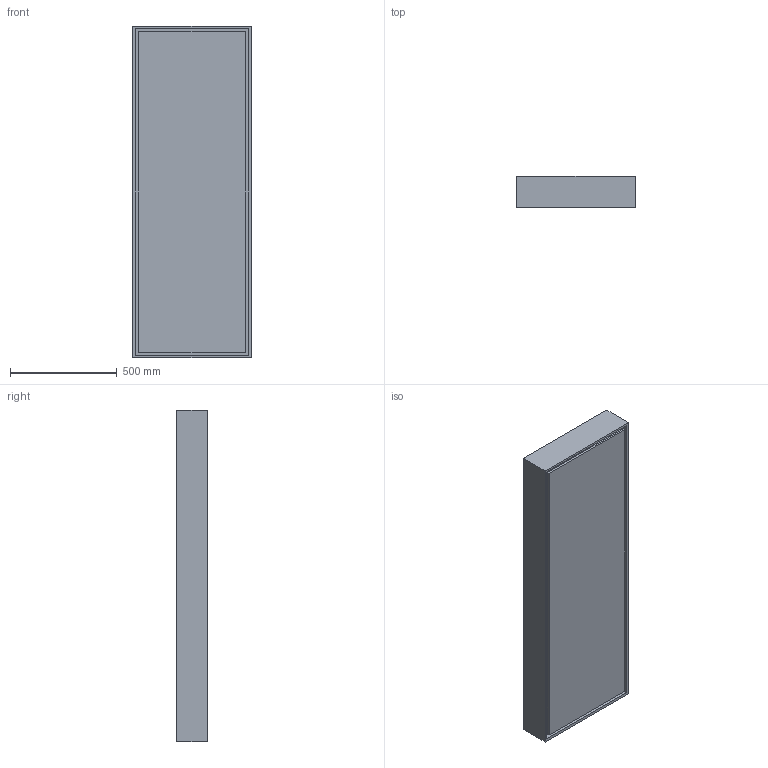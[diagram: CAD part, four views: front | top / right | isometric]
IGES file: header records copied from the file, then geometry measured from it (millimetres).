
Global section: file name: \\Archi-NAS\Comune\X GIOVANNI\SPECCHI\MIRR REVERSE LED\MIRR REVERSE LED_VERTICAL.igs; native system: Rhinoceros ( Feb 23 2021 ); preprocessor: Trout Lake IGES 012 Feb 23 2021; date: 230608.080344; units: millimetre
Bounding box: 554 x 145 x 1554 mm (x, y, z)
Surface area: 6779908 mm2 (no closed solid volume)
Topology: 0 solids, 0 shells, 57 faces, 244 edges, 244 vertices
Faces by surface type: bspline 57
